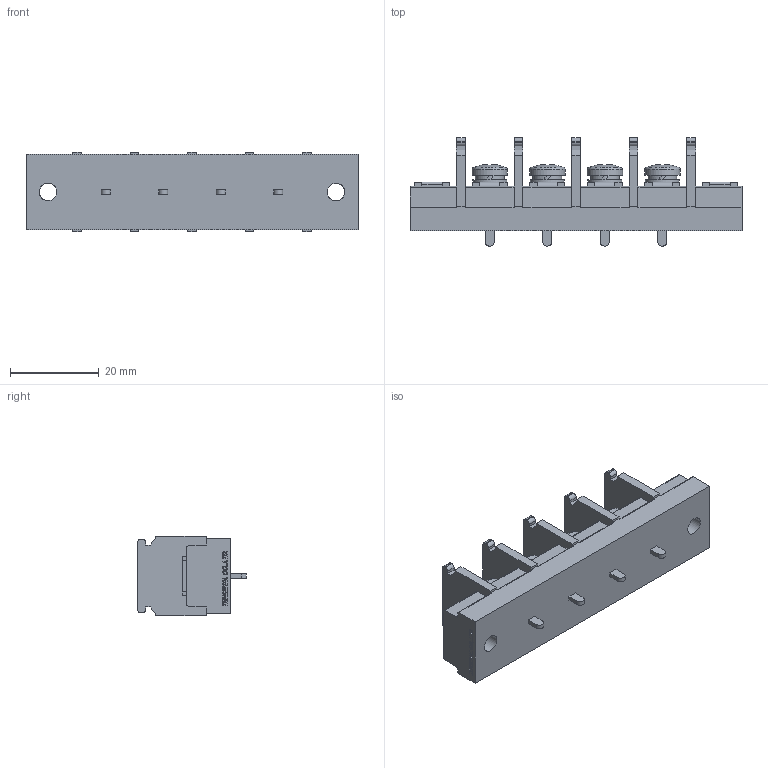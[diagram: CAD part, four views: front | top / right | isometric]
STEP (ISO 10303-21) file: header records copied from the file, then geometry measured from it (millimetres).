
FILE_DESCRIPTION(/* description */ ('Alibre Inc.'),/* implementation_level */ '2;1');
FILE_NAME(/* name */ 'export0',/* time_stamp */ '2016-08-02T19:21:39+09:00',/* author */ (''),/* organization */ (''),/* preprocessor_version */ 'ST-DEVELOPER v14',/* originating_system */ 'Alibre',/* authorisation */ '');
FILE_SCHEMA (('CONFIG_CONTROL_DESIGN'));
Length unit declared in the file: centimetre
Products named in the file (1): ID_1
Bounding box: 75 x 24.5 x 18 mm (x, y, z)
Volume: 14447.2 mm3; surface area: 7782 mm2
Topology: 1 solids, 37 shells, 1162 faces, 3054 edges, 2024 vertices
Faces by surface type: plane 842, bspline 208, cylinder 84, cone 20, sphere 4, torus 4
Full cylindrical faces by diameter (mm): 4 x8, 6.5 x4, 7.7 x4, 8 x4
Entity records: 34351 total; most frequent: CARTESIAN_POINT 8097, ORIENTED_EDGE 6028, DIRECTION 3828, EDGE_CURVE 3014, VECTOR 2254, LINE 2254, VERTEX_POINT 2008, EDGE_LOOP 1272
